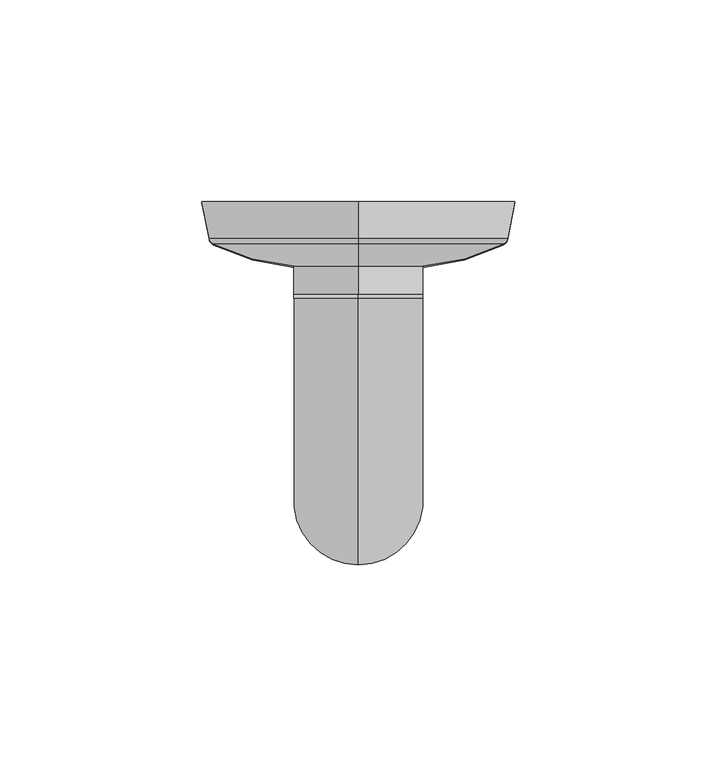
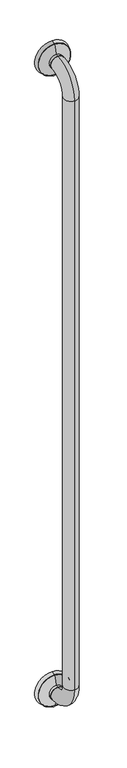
"""IFC4 building model written with IfcOpenShell, lengths in millimetres: proxy geometry, Grab Rail_Metlam_Straight_Vertical : 1532long x 90d x 32w (ML336SS)."""

from ifc_helpers import new_model, si_unit, point, frame, origin, place, context, project, spatial, polyline, circle_curve, ellipse_curve, trimmed, source, transform, mapped, element, save
from ifc_brep_helpers import plane_surface, cylinder_surface, revolved_surface, advanced_brep


def specialty_equipment_16520835(model_context):
    return source(origin(), model_context, "Body", "AdvancedBrep", [
        advanced_brep(
        [(0.0, -90.0, 834.0), (0.0, -24.0, 768.0), (0.0, -24.0, 800.0), (0.0, -58.0, 834.0), (0.0, -58.0, 2234.0), (0.0, -90.0, 2234.0), (0.0, -24.0, 2268.0), (0.0, -24.0, 2300.0), (0.0, -23.0, 768.0), (0.0, -23.0, 800.0), (0.0, -23.0, 2268.0), (0.0, -23.0, 2300.0), (0.0, 0.0, 2284.0), (0.0, 0.0, 2245.0), (0.0, 0.0, 2323.0), (0.0, -9.0646354, 2246.8129271), (0.0, -9.0646354, 2321.1870729), (0.0, -10.4521085, 2320.1384075), (0.0, -10.4521085, 2247.8615925), (0.0, -16.0065539, 2268.0), (0.0, -16.0065539, 2300.0), (0.0, -9.0646354, 746.8129271), (0.0, -9.0646354, 821.1870729), (0.0, 0.0, 823.0), (0.0, 0.0, 745.0), (0.0, -16.0065539, 768.0), (0.0, -16.0065539, 800.0), (0.0, -10.4521085, 820.1384075), (0.0, -10.4521085, 747.8615925), (0.0, 0.0, 784.0)],
        [
            (0, 1, circle_curve(frame((0.0, -24.0, 834.0), z_axis=(1.0, 0.0, 0.0), x_axis=(0.0, 0.0, -1.0)), 66.0)),
            (1, 2, circle_curve(frame((0.0, -24.0, 784.0), z_axis=(0.0, -1.0, 0.0), x_axis=(0.0, 0.0, -1.0)), 16.0)),
            (2, 3, circle_curve(frame((0.0, -24.0, 834.0), z_axis=(-1.0, 0.0, 0.0), x_axis=(0.0, 0.0, -1.0)), 34.0)),
            (3, 0, circle_curve(frame((0.0, -74.0, 834.0), z_axis=(0.0, 3.5352946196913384e-12, -1.0), x_axis=(0.0, -1.0, -3.5352946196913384e-12)), 16.0)),
            (0, 3, circle_curve(frame((0.0, -74.0, 834.0), z_axis=(0.0, 1.8213323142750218e-12, -1.0), x_axis=(0.0, -1.0, -1.8213323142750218e-12)), 16.0)),
            (2, 1, circle_curve(frame((0.0, -24.0, 784.0), z_axis=(0.0, -1.0, 0.0), x_axis=(0.0, 0.0, -1.0)), 16.0)),
            (3, 4),
            (4, 5, circle_curve(frame((0.0, -74.0, 2234.0), z_axis=(0.0, 0.0, -1.0), x_axis=(0.0, -1.0, 0.0)), 16.0)),
            (5, 0),
            (5, 4, circle_curve(frame((0.0, -74.0, 2234.0), z_axis=(0.0, 0.0, -1.0), x_axis=(0.0, -1.0, 0.0)), 16.0)),
            (4, 6, circle_curve(frame((0.0, -24.0, 2234.0), z_axis=(-1.0, 0.0, 0.0), x_axis=(0.0, -1.0, 0.0)), 34.0)),
            (6, 7, circle_curve(frame((0.0, -24.0, 2284.0), z_axis=(0.0, -1.0, 0.0), x_axis=(0.0, 0.0, 1.0)), 16.0)),
            (7, 5, circle_curve(frame((0.0, -24.0, 2234.0), z_axis=(1.0, 0.0, 0.0), x_axis=(0.0, -1.0, 0.0)), 66.0)),
            (7, 6, circle_curve(frame((0.0, -24.0, 2284.0), z_axis=(0.0, -1.0, 0.0), x_axis=(0.0, 0.0, 1.0)), 16.0)),
            (1, 8),
            (8, 9, circle_curve(frame((0.0, -23.0, 784.0), z_axis=(0.0, -1.0, 0.0), x_axis=(0.0, 0.0, -1.0)), 16.0)),
            (9, 2),
            (9, 8, circle_curve(frame((0.0, -23.0, 784.0), z_axis=(0.0, -1.0, 0.0), x_axis=(0.0, 0.0, -1.0)), 16.0)),
            (6, 10),
            (10, 11, circle_curve(frame((0.0, -23.0, 2284.0), z_axis=(0.0, -1.0, 0.0), x_axis=(0.0, 0.0, 1.0)), 16.0)),
            (11, 7),
            (11, 10, circle_curve(frame((0.0, -23.0, 2284.0), z_axis=(0.0, -1.0, 0.0), x_axis=(0.0, 0.0, 1.0)), 16.0)),
            (12, 13),
            (13, 14, circle_curve(frame((0.0, 0.0, 2284.0), z_axis=(0.0, 1.0, 0.0), x_axis=(0.0, 0.0, -1.0)), 39.0)),
            (14, 12),
            (14, 13, circle_curve(frame((0.0, 0.0, 2284.0), z_axis=(0.0, 1.0, 0.0), x_axis=(0.0, 0.0, -1.0)), 39.0)),
            (13, 15),
            (15, 16, circle_curve(frame((0.0, -9.0646354, 2284.0), z_axis=(0.0, 1.0, 0.0), x_axis=(0.0, 0.0, -1.0)), 37.1870729)),
            (16, 14),
            (16, 15, circle_curve(frame((0.0, -9.0646354, 2284.0), z_axis=(0.0, 1.0, 0.0), x_axis=(0.0, 0.0, -1.0)), 37.1870729)),
            (17, 18, circle_curve(frame((0.0, -10.4521085, 2284.0), z_axis=(0.0, -1.0, 0.0), x_axis=(0.0, 0.0, -1.0)), 36.1384075)),
            (18, 19, circle_curve(frame((0.0, 35.2834961, 2271.3112908), z_axis=(-1.0, 0.0, 0.0), x_axis=(0.0, 1.0, 0.0)), 51.3968275)),
            (19, 20, circle_curve(frame((0.0, -16.0065539, 2284.0), z_axis=(0.0, 1.0, 0.0), x_axis=(0.0, 0.0, -1.0)), 16.0)),
            (20, 17, circle_curve(frame((0.0, 35.2834961, 2296.6887092), z_axis=(-1.0, 0.0, 0.0), x_axis=(0.0, 1.0, 0.0)), 51.3968275)),
            (18, 17, circle_curve(frame((0.0, -10.4521085, 2284.0), z_axis=(0.0, -1.0, 0.0), x_axis=(0.0, 0.0, -1.0)), 36.1384075)),
            (20, 19, circle_curve(frame((0.0, -16.0065539, 2284.0), z_axis=(0.0, 1.0, 0.0), x_axis=(0.0, 0.0, -1.0)), 16.0)),
            (19, 10),
            (11, 20),
            (15, 18, circle_curve(frame((0.0, -8.6724031, 2248.7740884), z_axis=(-1.0, 0.0, 0.0), x_axis=(0.0, 1.0, 0.0)), 2.0)),
            (17, 16, circle_curve(frame((0.0, -8.6724031, 2319.2259116), z_axis=(-1.0, 0.0, 0.0), x_axis=(0.0, 1.0, 0.0)), 2.0)),
            (21, 22, circle_curve(frame((0.0, -9.0646354, 784.0), z_axis=(0.0, 1.0, 0.0), x_axis=(0.0, 0.0, 1.0)), 37.1870729)),
            (22, 23),
            (23, 24, circle_curve(frame((0.0, 0.0, 784.0), z_axis=(0.0, -1.0, 0.0), x_axis=(0.0, 0.0, 1.0)), 39.0)),
            (24, 21),
            (22, 21, circle_curve(frame((0.0, -9.0646354, 784.0), z_axis=(0.0, 1.0, 0.0), x_axis=(0.0, 0.0, 1.0)), 37.1870729)),
            (24, 23, circle_curve(frame((0.0, 0.0, 784.0), z_axis=(0.0, -1.0, 0.0), x_axis=(0.0, 0.0, 1.0)), 39.0)),
            (25, 26, circle_curve(frame((0.0, -16.0065539, 784.0), z_axis=(0.0, 1.0, 0.0), x_axis=(0.0, 0.0, 1.0)), 16.0)),
            (26, 27, circle_curve(frame((0.0, 35.2834961, 796.6887092), z_axis=(-1.0, 0.0, 0.0), x_axis=(0.0, 1.0, 0.0)), 51.3968275)),
            (27, 28, circle_curve(frame((0.0, -10.4521085, 784.0), z_axis=(0.0, -1.0, 0.0), x_axis=(0.0, 0.0, 1.0)), 36.1384075)),
            (28, 25, circle_curve(frame((0.0, 35.2834961, 771.3112908), z_axis=(-1.0, 0.0, 0.0), x_axis=(0.0, 1.0, 0.0)), 51.3968275)),
            (26, 25, circle_curve(frame((0.0, -16.0065539, 784.0), z_axis=(0.0, 1.0, 0.0), x_axis=(0.0, 0.0, 1.0)), 16.0)),
            (28, 27, circle_curve(frame((0.0, -10.4521085, 784.0), z_axis=(0.0, -1.0, 0.0), x_axis=(0.0, 0.0, 1.0)), 36.1384075)),
            (25, 8),
            (9, 26),
            (23, 29),
            (29, 24),
            (21, 28, circle_curve(frame((0.0, -8.6724031, 748.7740884), z_axis=(-1.0, 0.0, 0.0), x_axis=(0.0, 1.0, 0.0)), 2.0)),
            (27, 22, circle_curve(frame((0.0, -8.6724031, 819.2259116), z_axis=(-1.0, 0.0, 0.0), x_axis=(0.0, 1.0, 0.0)), 2.0)),
        ],
        [
            revolved_surface(trimmed(ellipse_curve(frame((0.0, -24.0, 784.0), z_axis=(0.0, 1.0, 0.0), x_axis=(0.0, 0.0, -1.0)), 16.0, 16.0), [point((0.0, -24.0, 800.0))], [point((0.0, -24.0, 768.0))], True, "CARTESIAN"), (0.0, -24.0, 834.0), (-1.0, 0.0, 0.0)),
            revolved_surface(trimmed(ellipse_curve(frame((0.0, -24.0, 784.0), z_axis=(0.0, 1.0, 0.0), x_axis=(0.0, 0.0, -1.0)), 16.0, 16.0), [point((0.0, -24.0, 768.0))], [point((0.0, -24.0, 800.0))], True, "CARTESIAN"), (0.0, -24.0, 834.0), (-1.0, 0.0, 0.0)),
            cylinder_surface(frame((0.0, -74.0, 834.0), z_axis=(0.0, 0.0, -1.0), x_axis=(0.0, -1.0, 0.0)), 16.0),
            revolved_surface(trimmed(ellipse_curve(frame((0.0, -74.0, 2234.0), z_axis=(0.0, 0.0, -1.0), x_axis=(0.0, -1.0, 0.0)), 16.0, 16.0), [point((0.0, -58.0, 2234.0))], [point((0.0, -90.0, 2234.0))], True, "CARTESIAN"), (0.0, -24.0, 2234.0), (-1.0, 0.0, 0.0)),
            revolved_surface(trimmed(ellipse_curve(frame((0.0, -74.0, 2234.0), z_axis=(0.0, 0.0, -1.0), x_axis=(0.0, -1.0, 0.0)), 16.0, 16.0), [point((0.0, -90.0, 2234.0))], [point((0.0, -58.0, 2234.0))], True, "CARTESIAN"), (0.0, -24.0, 2234.0), (-1.0, 0.0, 0.0)),
            cylinder_surface(frame((0.0, -23.0, 784.0), z_axis=(0.0, 1.0, 0.0), x_axis=(0.0, 0.0, -1.0)), 16.0),
            cylinder_surface(frame((0.0, -24.0, 2284.0), z_axis=(0.0, -1.0, 0.0), x_axis=(0.0, 0.0, 1.0)), 16.0),
            plane_surface(frame((0.0, 0.0, 2284.0), z_axis=(0.0, 1.0, 0.0), x_axis=(0.0, 0.0, -1.0))),
            revolved_surface(polyline([(0.0, -9.0646354, 2246.8129271), (0.0, 0.0, 2245.0)]), (0.0, -10.0, 2284.0), (0.0, 1.0, 0.0)),
            revolved_surface(trimmed(ellipse_curve(frame((0.0, 35.2834961, 2271.3112908), z_axis=(1.0, 0.0, 0.0), x_axis=(0.0, 1.0, 0.0)), 51.3968275, 51.3968275), [point((0.0, -16.0065539, 2268.0))], [point((0.0, -10.4521085, 2247.8615925))], True, "CARTESIAN"), (0.0, -10.0, 2284.0), (0.0, 1.0, 0.0)),
            cylinder_surface(frame((0.0, -10.0, 2284.0), z_axis=(0.0, 1.0, 0.0), x_axis=(0.0, 0.0, -1.0)), 16.0),
            revolved_surface(trimmed(ellipse_curve(frame((0.0, -8.6724031, 2248.7740884), z_axis=(1.0, 0.0, 0.0), x_axis=(0.0, 1.0, 0.0)), 2.0, 2.0), [point((0.0, -10.4521085, 2247.8615925))], [point((0.0, -9.0646354, 2246.8129271))], True, "CARTESIAN"), (0.0, -10.0, 2284.0), (0.0, 1.0, 0.0)),
            revolved_surface(polyline([(0.0, 0.0, 823.0), (0.0, -9.0646354, 821.1870729)]), (0.0, -10.0, 784.0), (0.0, -1.0, 0.0)),
            revolved_surface(trimmed(ellipse_curve(frame((0.0, 35.2834961, 796.6887092), z_axis=(1.0, 0.0, 0.0), x_axis=(0.0, 1.0, 0.0)), 51.3968275, 51.3968275), [point((0.0, -10.4521085, 820.1384075))], [point((0.0, -16.0065539, 800.0))], True, "CARTESIAN"), (0.0, -10.0, 784.0), (0.0, -1.0, 0.0)),
            cylinder_surface(frame((0.0, -10.0, 784.0), z_axis=(0.0, -1.0, 0.0), x_axis=(0.0, 0.0, 1.0)), 16.0),
            plane_surface(frame((0.0, 0.0, 784.0), z_axis=(0.0, 1.0, 0.0), x_axis=(0.0, 0.0, 1.0))),
            revolved_surface(trimmed(ellipse_curve(frame((0.0, -8.6724031, 819.2259116), z_axis=(1.0, 0.0, 0.0), x_axis=(0.0, 1.0, 0.0)), 2.0, 2.0), [point((0.0, -9.0646354, 821.1870729))], [point((0.0, -10.4521085, 820.1384075))], True, "CARTESIAN"), (0.0, -10.0, 784.0), (0.0, -1.0, 0.0)),
        ],
        [
            (0, [[1, 2, 3, 4]]),
            (1, [[-1, 5, -3, 6]]),
            (2, [[-4, 7, 8, 9]]),
            (2, [[-5, -9, 10, -7]]),
            (3, [[-8, 11, 12, 13]]),
            (4, [[-10, -13, 14, -11]]),
            (5, [[-2, 15, 16, 17]]),
            (5, [[-6, -17, 18, -15]]),
            (6, [[-12, 19, 20, 21]]),
            (6, [[-14, -21, 22, -19]]),
            (7, [[23, 24, 25]]),
            (7, [[-23, -25, 26]]),
            (8, [[-24, 27, 28, 29]]),
            (8, [[-26, -29, 30, -27]]),
            (9, [[31, 32, 33, 34]]),
            (9, [[-32, 35, -34, 36]]),
            (10, [[-33, 37, -22, 38]]),
            (10, [[-36, -38, -20, -37]]),
            (11, [[-28, 39, -31, 40]]),
            (11, [[-30, -40, -35, -39]]),
            (12, [[41, 42, 43, 44]]),
            (12, [[-42, 45, -44, 46]]),
            (13, [[47, 48, 49, 50]]),
            (13, [[-48, 51, -50, 52]]),
            (14, [[-47, 53, -18, 54]]),
            (14, [[-51, -54, -16, -53]]),
            (15, [[-43, 55, 56]]),
            (15, [[-46, -56, -55]]),
            (16, [[-41, 57, -49, 58]]),
            (16, [[-45, -58, -52, -57]]),
        ],
    ),
    ])


if __name__ == "__main__":
    model = new_model("IFC4")
    model_context = context("Model", 3, world=origin())
    ifc_project = project(units=[si_unit("LENGTHUNIT", "METRE", prefix="MILLI")], contexts=[model_context])
    site = spatial("IfcSite", under=ifc_project)
    building = spatial("IfcBuilding", under=site)
    placement = place(None, origin())
    specialty_equipment_shape = specialty_equipment_16520835(model_context)
    element("IfcBuildingElementProxy", 1, Name="Grab Rail_Metlam_Straight_Vertical : 1532long x 90d x 32w (ML336SS)", ObjectType="Grab Rail_Metlam_Straight_Vertical : 1532long x 90d x 32w (ML336SS)", at=placement, inside=building, context=model_context, shape_type="MappedRepresentation", body=[
        mapped(specialty_equipment_shape, transform((0.0, 0.0, 0.0), x_axis=(1.0, 0.0, 0.0), y_axis=(0.0, 1.0, 0.0), z_axis=(0.0, 0.0, 1.0))),
    ])
    save(model, "model.ifc")
